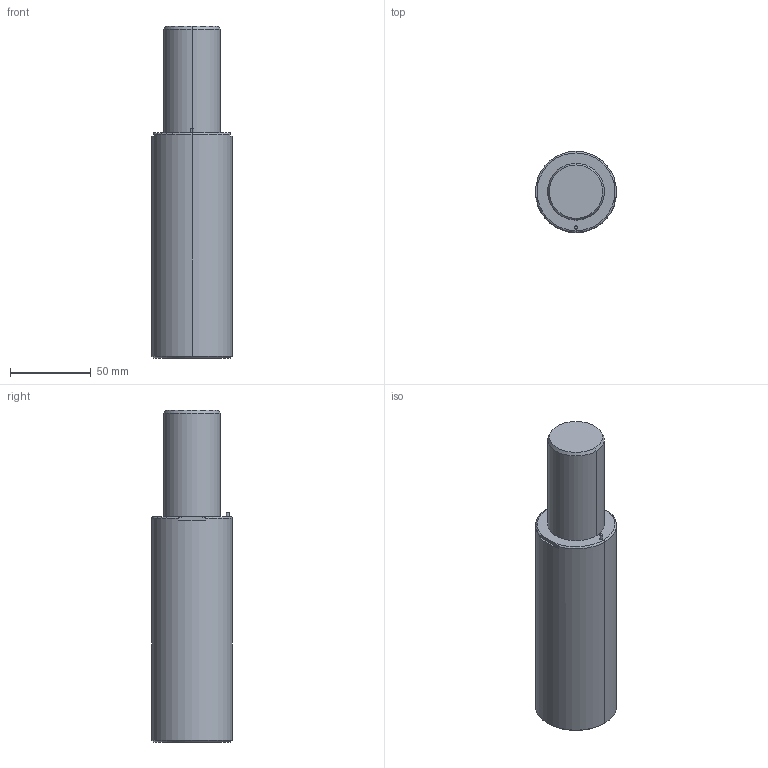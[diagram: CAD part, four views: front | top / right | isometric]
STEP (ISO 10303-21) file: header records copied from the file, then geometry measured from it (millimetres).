
FILE_DESCRIPTION(/* description */ (''),/* implementation_level */ '2;1');
FILE_NAME(/* name */ '3d_gsx50-63_03962_r00.stp',/* time_stamp */ '2011-01-10T14:15:12+09:00',/* author */ ('MISUMI'),/* organization */ (''),/* preprocessor_version */ 'ST-DEVELOPER v11',/* originating_system */ 'UGS - NX 5.0',/* authorisation */ '');
FILE_SCHEMA (('CONFIG_CONTROL_DESIGN'));
Length unit declared in the file: millimetre
Products named in the file (1): 3d_gsx50-63_03962_r00
Bounding box: 50 x 50 x 205 mm (x, y, z)
Volume: 332865.2 mm3; surface area: 34486.3 mm2
Topology: 1 solids, 1 shells, 59 faces, 130 edges, 78 vertices
Faces by surface type: cylinder 28, plane 15, cone 12, torus 4
Entity records: 1724 total; most frequent: CARTESIAN_POINT 320, DIRECTION 308, ORIENTED_EDGE 244, AXIS2_PLACEMENT_3D 130, EDGE_CURVE 122, VERTEX_POINT 78, EDGE_LOOP 72, CIRCLE 70
